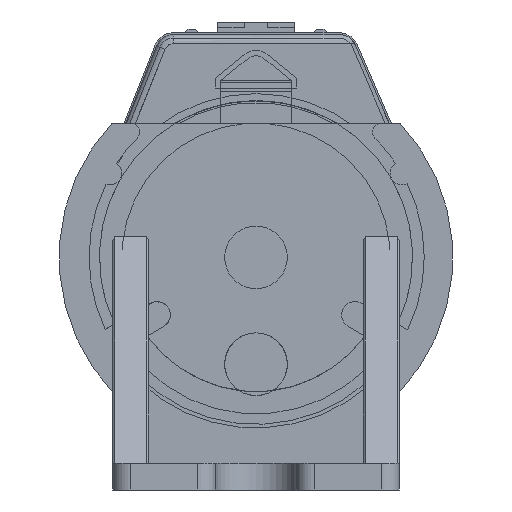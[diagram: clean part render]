
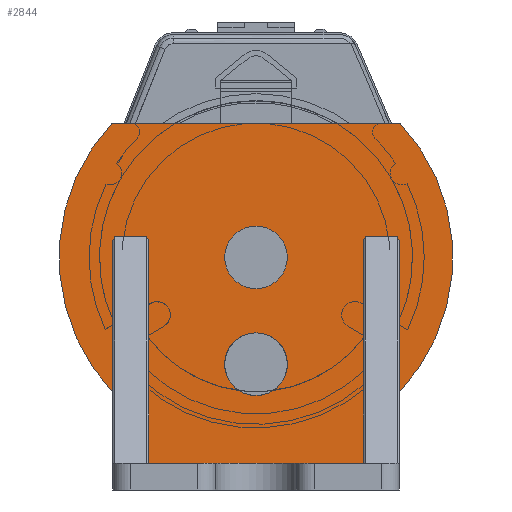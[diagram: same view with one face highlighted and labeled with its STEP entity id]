
A CAD part, left-side view. The second image highlights one B-rep face of the part: STEP entity #2844.
In plain terms, the highlighted planar face has unit normal (-1, 0, 0).
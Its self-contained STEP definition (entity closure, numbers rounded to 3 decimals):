
#1227=CARTESIAN_POINT('',(4.,-8.,13.944));
#1228=CARTESIAN_POINT('',(4.,-8.,14.044));
#1229=CARTESIAN_POINT('',(4.,-8.,14.144));
#1230=CARTESIAN_POINT('',(4.,-7.9,14.144));
#1232=DIRECTION('',(0.,1.,0.));
#1233=VECTOR('',#1232,1.8);
#1234=CARTESIAN_POINT('',(4.,-7.9,14.144));
#1235=LINE('',#1234,#1233);
#1236=CARTESIAN_POINT('',(4.,-6.1,14.144));
#1237=CARTESIAN_POINT('',(4.,-6.,14.144));
#1238=CARTESIAN_POINT('',(4.,-6.,14.044));
#1239=CARTESIAN_POINT('',(4.,-6.,13.944));
#1241=DIRECTION('',(0.,0.,-1.));
#1242=VECTOR('',#1241,12.444);
#1243=CARTESIAN_POINT('',(4.,-6.,13.944));
#1244=LINE('',#1243,#1242);
#1245=DIRECTION('',(0.,1.,0.));
#1246=VECTOR('',#1245,12.);
#1247=CARTESIAN_POINT('',(4.,-6.,1.5));
#1248=LINE('',#1247,#1246);
#1249=DIRECTION('',(0.,0.,1.));
#1250=VECTOR('',#1249,12.444);
#1251=CARTESIAN_POINT('',(4.,6.,1.5));
#1252=LINE('',#1251,#1250);
#1253=CARTESIAN_POINT('',(4.,6.,13.944));
#1254=CARTESIAN_POINT('',(4.,6.,14.044));
#1255=CARTESIAN_POINT('',(4.,6.,14.144));
#1256=CARTESIAN_POINT('',(4.,6.1,14.144));
#1258=DIRECTION('',(0.,1.,0.));
#1259=VECTOR('',#1258,1.8);
#1260=CARTESIAN_POINT('',(4.,6.1,14.144));
#1261=LINE('',#1260,#1259);
#1262=CARTESIAN_POINT('',(4.,7.9,14.144));
#1263=CARTESIAN_POINT('',(4.,8.,14.144));
#1264=CARTESIAN_POINT('',(4.,8.,14.044));
#1265=CARTESIAN_POINT('',(4.,8.,13.944));
#1267=CARTESIAN_POINT('',(4.,0.,13.));
#1268=DIRECTION('',(1.,0.,0.));
#1269=DIRECTION('',(0.,0.727,-0.686));
#1270=AXIS2_PLACEMENT_3D('',#1267,#1268,#1269);
#1272=DIRECTION('',(0.,-1.,0.));
#1273=VECTOR('',#1272,16.093);
#1274=CARTESIAN_POINT('',(4.,8.047,20.5));
#1275=LINE('',#1274,#1273);
#1276=CARTESIAN_POINT('',(4.,0.,13.));
#1277=DIRECTION('',(1.,0.,0.));
#1278=DIRECTION('',(0.,-0.732,0.682));
#1279=AXIS2_PLACEMENT_3D('',#1276,#1277,#1278);
#1281=CARTESIAN_POINT('',(4.,0.,7.03));
#1282=DIRECTION('',(-1.,0.,0.));
#1283=DIRECTION('',(0.,0.,1.));
#1284=AXIS2_PLACEMENT_3D('',#1281,#1282,#1283);
#1286=CARTESIAN_POINT('',(4.,0.,7.03));
#1287=DIRECTION('',(-1.,0.,0.));
#1288=DIRECTION('',(0.,0.,-1.));
#1289=AXIS2_PLACEMENT_3D('',#1286,#1287,#1288);
#1291=CARTESIAN_POINT('',(4.,0.,13.));
#1292=DIRECTION('',(-1.,0.,0.));
#1293=DIRECTION('',(0.,0.,1.));
#1294=AXIS2_PLACEMENT_3D('',#1291,#1292,#1293);
#1296=CARTESIAN_POINT('',(4.,0.,13.));
#1297=DIRECTION('',(-1.,0.,0.));
#1298=DIRECTION('',(0.,0.,-1.));
#1299=AXIS2_PLACEMENT_3D('',#1296,#1297,#1298);
#1370=DIRECTION('',(0.,0.,-1.));
#1371=VECTOR('',#1370,8.494);
#1372=CARTESIAN_POINT('',(4.,-8.,13.944));
#1373=LINE('',#1372,#1371);
#2065=DIRECTION('',(0.,0.,1.));
#2066=VECTOR('',#2065,8.494);
#2067=CARTESIAN_POINT('',(4.,8.,5.45));
#2068=LINE('',#2067,#2066);
#2421=CARTESIAN_POINT('',(4.,0.,8.78));
#2423=VERTEX_POINT('',#2421);
#2424=CARTESIAN_POINT('',(4.,0.,5.28));
#2425=VERTEX_POINT('',#2424);
#2450=CARTESIAN_POINT('',(4.,-8.047,20.5));
#2451=VERTEX_POINT('',#2450);
#2452=CARTESIAN_POINT('',(4.,8.047,20.5));
#2453=VERTEX_POINT('',#2452);
#2454=CARTESIAN_POINT('',(4.,-8.,5.45));
#2455=VERTEX_POINT('',#2454);
#2457=CARTESIAN_POINT('',(4.,-8.,13.944));
#2459=VERTEX_POINT('',#2457);
#2465=CARTESIAN_POINT('',(4.,-7.9,14.144));
#2466=VERTEX_POINT('',#2465);
#2491=CARTESIAN_POINT('',(4.,6.,1.5));
#2492=VERTEX_POINT('',#2491);
#2493=CARTESIAN_POINT('',(4.,-6.,1.5));
#2494=VERTEX_POINT('',#2493);
#2516=CARTESIAN_POINT('',(4.,8.,13.944));
#2517=VERTEX_POINT('',#2516);
#2518=CARTESIAN_POINT('',(4.,8.,5.45));
#2519=VERTEX_POINT('',#2518);
#2520=VERTEX_POINT('',#1262);
#2521=CARTESIAN_POINT('',(4.,-6.1,14.144));
#2522=VERTEX_POINT('',#2521);
#2523=VERTEX_POINT('',#1239);
#2524=CARTESIAN_POINT('',(4.,6.,13.944));
#2525=VERTEX_POINT('',#2524);
#2526=VERTEX_POINT('',#1256);
#2527=CARTESIAN_POINT('',(4.,0.,14.75));
#2528=CARTESIAN_POINT('',(4.,0.,11.25));
#2529=VERTEX_POINT('',#2527);
#2530=VERTEX_POINT('',#2528);
#2799=CARTESIAN_POINT('',(4.,0.,13.));
#2800=DIRECTION('',(1.,0.,0.));
#2801=DIRECTION('',(0.,0.,-1.));
#2802=AXIS2_PLACEMENT_3D('',#2799,#2800,#2801);
#2803=PLANE('',#2802);
#2805=ORIENTED_EDGE('',*,*,#2804,.T.);
#2807=ORIENTED_EDGE('',*,*,#2806,.T.);
#2809=ORIENTED_EDGE('',*,*,#2808,.T.);
#2811=ORIENTED_EDGE('',*,*,#2810,.T.);
#2813=ORIENTED_EDGE('',*,*,#2812,.T.);
#2815=ORIENTED_EDGE('',*,*,#2814,.T.);
#2817=ORIENTED_EDGE('',*,*,#2816,.T.);
#2819=ORIENTED_EDGE('',*,*,#2818,.T.);
#2821=ORIENTED_EDGE('',*,*,#2820,.T.);
#2823=ORIENTED_EDGE('',*,*,#2822,.F.);
#2825=ORIENTED_EDGE('',*,*,#2824,.T.);
#2827=ORIENTED_EDGE('',*,*,#2826,.T.);
#2829=ORIENTED_EDGE('',*,*,#2828,.T.);
#2831=ORIENTED_EDGE('',*,*,#2830,.F.);
#2832=EDGE_LOOP('',(#2805,#2807,#2809,#2811,#2813,#2815,#2817,#2819,#2821,#2823,
#2825,#2827,#2829,#2831));
#2833=FACE_OUTER_BOUND('',#2832,.F.);
#2835=ORIENTED_EDGE('',*,*,#2834,.T.);
#2837=ORIENTED_EDGE('',*,*,#2836,.T.);
#2838=EDGE_LOOP('',(#2835,#2837));
#2839=FACE_BOUND('',#2838,.F.);
#2840=ORIENTED_EDGE('',*,*,#2778,.T.);
#2841=ORIENTED_EDGE('',*,*,#2793,.T.);
#2842=EDGE_LOOP('',(#2840,#2841));
#2843=FACE_BOUND('',#2842,.F.);
#1231=B_SPLINE_CURVE_WITH_KNOTS('',3,(#1227,#1228,#1229,#1230),.UNSPECIFIED.,
.F.,.F.,(4,4),(0.,1.),.UNSPECIFIED.);
#1240=B_SPLINE_CURVE_WITH_KNOTS('',3,(#1236,#1237,#1238,#1239),.UNSPECIFIED.,
.F.,.F.,(4,4),(0.,1.),.UNSPECIFIED.);
#1257=B_SPLINE_CURVE_WITH_KNOTS('',3,(#1253,#1254,#1255,#1256),.UNSPECIFIED.,
.F.,.F.,(4,4),(0.,1.),.UNSPECIFIED.);
#1266=B_SPLINE_CURVE_WITH_KNOTS('',3,(#1262,#1263,#1264,#1265),.UNSPECIFIED.,
.F.,.F.,(4,4),(0.,1.),.UNSPECIFIED.);
#1271=CIRCLE('',#1270,11.);
#1280=CIRCLE('',#1279,11.);
#1285=CIRCLE('',#1284,1.75);
#1290=CIRCLE('',#1289,1.75);
#1295=CIRCLE('',#1294,1.75);
#1300=CIRCLE('',#1299,1.75);
#2778=EDGE_CURVE('',#2529,#2530,#1295,.T.);
#2793=EDGE_CURVE('',#2530,#2529,#1300,.T.);
#2804=EDGE_CURVE('',#2459,#2466,#1231,.T.);
#2806=EDGE_CURVE('',#2466,#2522,#1235,.T.);
#2808=EDGE_CURVE('',#2522,#2523,#1240,.T.);
#2810=EDGE_CURVE('',#2523,#2494,#1244,.T.);
#2812=EDGE_CURVE('',#2494,#2492,#1248,.T.);
#2814=EDGE_CURVE('',#2492,#2525,#1252,.T.);
#2816=EDGE_CURVE('',#2525,#2526,#1257,.T.);
#2818=EDGE_CURVE('',#2526,#2520,#1261,.T.);
#2820=EDGE_CURVE('',#2520,#2517,#1266,.T.);
#2822=EDGE_CURVE('',#2519,#2517,#2068,.T.);
#2824=EDGE_CURVE('',#2519,#2453,#1271,.T.);
#2826=EDGE_CURVE('',#2453,#2451,#1275,.T.);
#2828=EDGE_CURVE('',#2451,#2455,#1280,.T.);
#2830=EDGE_CURVE('',#2459,#2455,#1373,.T.);
#2834=EDGE_CURVE('',#2423,#2425,#1285,.T.);
#2836=EDGE_CURVE('',#2425,#2423,#1290,.T.);
#2844=ADVANCED_FACE('',(#2833,#2839,#2843),#2803,.F.);
